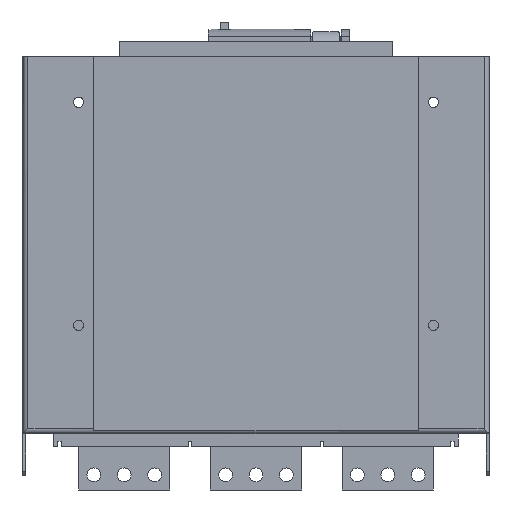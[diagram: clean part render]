
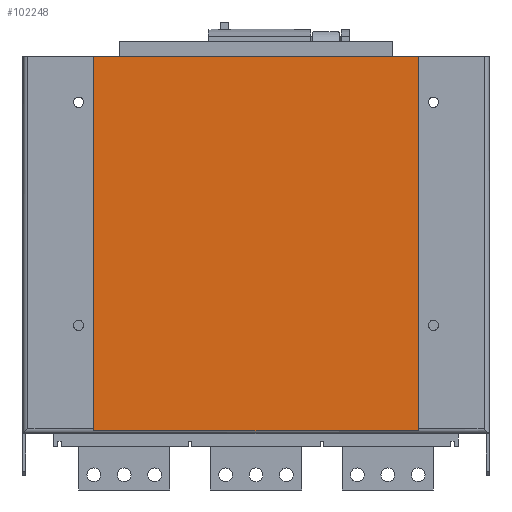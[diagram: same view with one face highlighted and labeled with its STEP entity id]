
A CAD part, front view. The second image highlights one B-rep face of the part: STEP entity #102248.
In plain terms, the highlighted planar face has unit normal (0, -1, 0).
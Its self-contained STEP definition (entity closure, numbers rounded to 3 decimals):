
#7370 = DIRECTION ( 'NONE',  ( 1., 0., 0. ) ) ;
#7371 = VECTOR ( 'NONE', #7370, 1000. ) ;
#7372 = CARTESIAN_POINT ( 'NONE',  ( -160., -215.5, 280. ) ) ;
#7374 = LINE ( 'NONE', #7372, #7371 ) ;
#7524 = CARTESIAN_POINT ( 'NONE',  ( 160., -215.5, 280. ) ) ;
#7737 = CARTESIAN_POINT ( 'NONE',  ( -160., -215.5, 280. ) ) ;
#21249 = DIRECTION ( 'NONE',  ( -1., 0., 0. ) ) ;
#21250 = VECTOR ( 'NONE', #21249, 1000. ) ;
#21251 = CARTESIAN_POINT ( 'NONE',  ( -160., -215.5, -89. ) ) ;
#21252 = LINE ( 'NONE', #21251, #21250 ) ;
#21254 = CARTESIAN_POINT ( 'NONE',  ( 160., -215.5, -89. ) ) ;
#21304 = CARTESIAN_POINT ( 'NONE',  ( -160., -215.5, -89. ) ) ;
#21357 = DIRECTION ( 'NONE',  ( 0., 0., 1. ) ) ;
#21358 = VECTOR ( 'NONE', #21357, 1000. ) ;
#21359 = CARTESIAN_POINT ( 'NONE',  ( -160., -215.5, -89. ) ) ;
#21360 = LINE ( 'NONE', #21359, #21358 ) ;
#21449 = FACE_OUTER_BOUND ( 'NONE', #102252, .T. ) ;
#21450 = DIRECTION ( 'NONE',  ( 0., 0., -1. ) ) ;
#21451 = VECTOR ( 'NONE', #21450, 1000. ) ;
#21452 = CARTESIAN_POINT ( 'NONE',  ( 160., -215.5, -89. ) ) ;
#21454 = LINE ( 'NONE', #21452, #21451 ) ;
#21488 = DIRECTION ( 'NONE',  ( -1., 0., 0. ) ) ;
#21489 = DIRECTION ( 'NONE',  ( 0., 1., 0. ) ) ;
#21490 = CARTESIAN_POINT ( 'NONE',  ( -160., -215.5, 280. ) ) ;
#21491 = AXIS2_PLACEMENT_3D ( 'NONE', #21490, #21489, #21488 ) ;
#21493 = PLANE ( 'NONE',  #21491 ) ;
#77330 = EDGE_CURVE ( 'NONE', #77463, #77372, #7374, .T. ) ;
#77372 = VERTEX_POINT ( 'NONE', #7524 ) ;
#77463 = VERTEX_POINT ( 'NONE', #7737 ) ;
#102144 = VERTEX_POINT ( 'NONE', #21254 ) ;
#102146 = EDGE_CURVE ( 'NONE', #102144, #102165, #21252, .T. ) ;
#102165 = VERTEX_POINT ( 'NONE', #21304 ) ;
#102167 = EDGE_CURVE ( 'NONE', #102165, #77463, #21360, .T. ) ;
#102247 = EDGE_CURVE ( 'NONE', #77372, #102144, #21454, .T. ) ;
#102248 = ADVANCED_FACE ( 'NONE', ( #21449 ), #21493, .F. ) ;
#102252 = EDGE_LOOP ( 'NONE', ( #102254, #102257, #102259, #102260 ) ) ;
#102254 = ORIENTED_EDGE ( 'NONE', *, *, #102167, .F. ) ;
#102257 = ORIENTED_EDGE ( 'NONE', *, *, #102146, .F. ) ;
#102259 = ORIENTED_EDGE ( 'NONE', *, *, #102247, .F. ) ;
#102260 = ORIENTED_EDGE ( 'NONE', *, *, #77330, .F. ) ;
